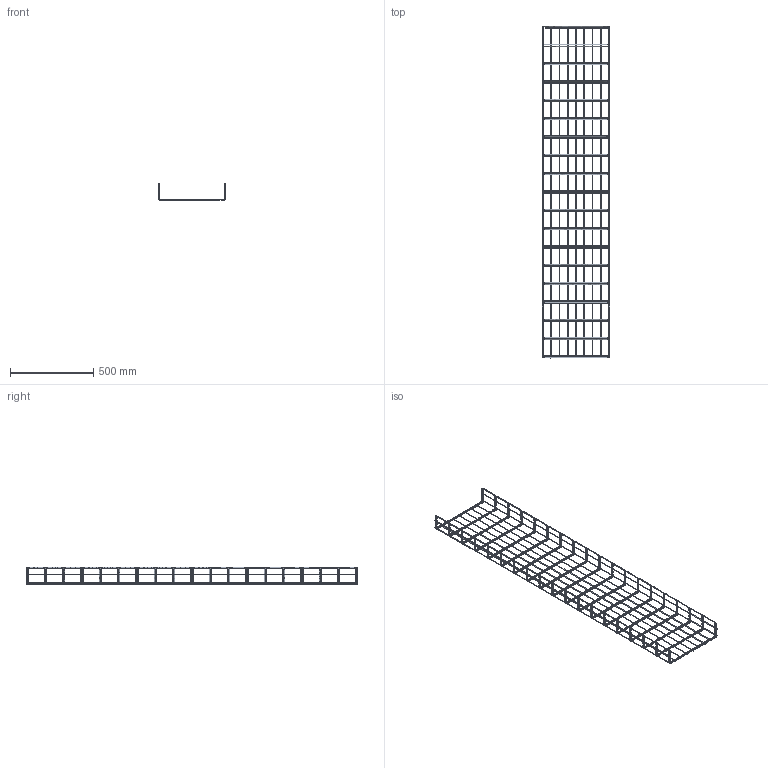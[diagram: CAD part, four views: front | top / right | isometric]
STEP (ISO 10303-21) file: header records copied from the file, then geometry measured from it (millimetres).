
FILE_DESCRIPTION(/* description */ (''),/* implementation_level */ '2;1');
FILE_NAME(/* name */ 'M2_400×100',/* time_stamp */ '2012-11-29T22:13:19+01:00',/* author */ (''),/* organization */ (''),/* preprocessor_version */ 'ST-DEVELOPER v10',/* originating_system */ '',/* authorisation */ '');
FILE_SCHEMA (('AUTOMOTIVE_DESIGN_CC2'));
Length unit declared in the file: millimetre
Products named in the file (1): 1
Bounding box: 404.19 x 1993.52 x 103.94 mm (x, y, z)
Surface area: 573805.1 mm2 (no closed solid volume)
Topology: 0 solids, 339 shells, 652 faces, 1904 edges, 1278 vertices
Faces by surface type: bspline 626, plane 26
Entity records: 53550 total; most frequent: CARTESIAN_POINT 41316, ORIENTED_EDGE 2530, EDGE_CURVE 1904, VERTEX_POINT 1278, B_SPLINE_CURVE_WITH_KNOTS 698, ADVANCED_FACE 652, FACE_OUTER_BOUND 652, EDGE_LOOP 652
